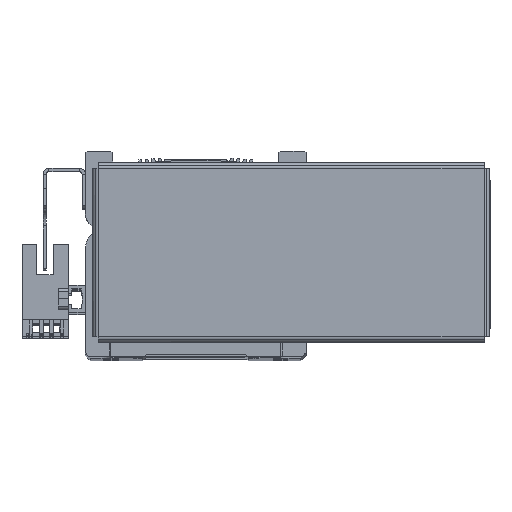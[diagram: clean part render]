
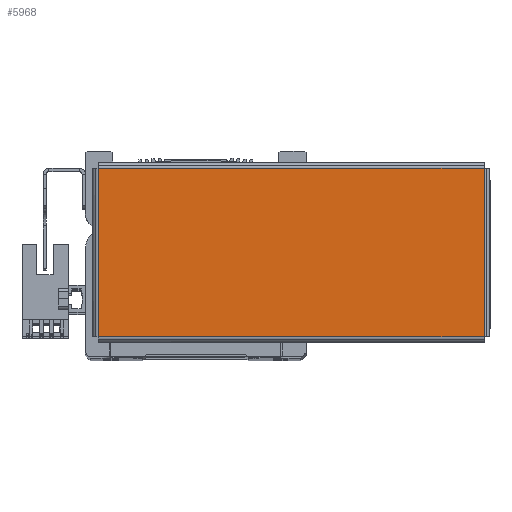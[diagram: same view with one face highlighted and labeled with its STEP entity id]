
A CAD part, top view. The second image highlights one B-rep face of the part: STEP entity #5968.
In plain terms, the highlighted planar face has unit normal (0, 0, 1) as drawn and (0, 0, -1) by its records, which use the part's own axes.
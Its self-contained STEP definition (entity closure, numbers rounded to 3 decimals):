
#1478 = ORIENTED_EDGE ( 'NONE', *, *, #26765, .T. ) ;
#1543 = ORIENTED_EDGE ( 'NONE', *, *, #26695, .T. ) ;
#1552 = ORIENTED_EDGE ( 'NONE', *, *, #26755, .T. ) ;
#1578 = ORIENTED_EDGE ( 'NONE', *, *, #26758, .T. ) ;
#5968 = ADVANCED_FACE ( 'NONE', ( #27802 ), #21535, .F. ) ;
#7995 = CARTESIAN_POINT ( 'NONE',  ( -56.893, 24.763, -1. ) ) ;
#8027 = DIRECTION ( 'NONE',  ( 1., 0., 0. ) ) ;
#11810 = CARTESIAN_POINT ( 'NONE',  ( -56.863, 24.763, -1. ) ) ;
#11815 = CARTESIAN_POINT ( 'NONE',  ( 56.863, -24.763, -1. ) ) ;
#11921 = CARTESIAN_POINT ( 'NONE',  ( -56.863, -24.763, -1. ) ) ;
#12757 = EDGE_LOOP ( 'NONE', ( #1478, #1578, #1552, #1543 ) ) ;
#21535 = PLANE ( 'NONE',  #35693 ) ;
#21553 = CARTESIAN_POINT ( 'NONE',  ( 0., 0., -1. ) ) ;
#21564 = DIRECTION ( 'NONE',  ( 0., 0., 1. ) ) ;
#21565 = DIRECTION ( 'NONE',  ( 1., 0., 0. ) ) ;
#21862 = VERTEX_POINT ( 'NONE', #11815 ) ;
#21999 = VECTOR ( 'NONE', #8027, 1000. ) ;
#22053 = LINE ( 'NONE', #7995, #21999 ) ;
#22101 = LINE ( 'NONE', #38589, #22102 ) ;
#22102 = VECTOR ( 'NONE', #38570, 1000. ) ;
#22104 = LINE ( 'NONE', #38572, #22107 ) ;
#22107 = VECTOR ( 'NONE', #38592, 1000. ) ;
#22147 = LINE ( 'NONE', #38624, #22166 ) ;
#22166 = VECTOR ( 'NONE', #38619, 1000. ) ;
#23071 = VERTEX_POINT ( 'NONE', #11810 ) ;
#26038 = VERTEX_POINT ( 'NONE', #11921 ) ;
#26695 = EDGE_CURVE ( 'NONE', #23071, #40767, #22053, .T. ) ;
#26755 = EDGE_CURVE ( 'NONE', #26038, #23071, #22101, .T. ) ;
#26758 = EDGE_CURVE ( 'NONE', #21862, #26038, #22104, .T. ) ;
#26765 = EDGE_CURVE ( 'NONE', #40767, #21862, #22147, .T. ) ;
#27802 = FACE_OUTER_BOUND ( 'NONE', #12757, .T. ) ;
#34631 = CARTESIAN_POINT ( 'NONE',  ( 56.863, 24.763, -1. ) ) ;
#35693 = AXIS2_PLACEMENT_3D ( 'NONE', #21553, #21564, #21565 ) ;
#38570 = DIRECTION ( 'NONE',  ( 0., 1., 0. ) ) ;
#38572 = CARTESIAN_POINT ( 'NONE',  ( 56.893, -24.763, -1. ) ) ;
#38589 = CARTESIAN_POINT ( 'NONE',  ( -56.863, -24.793, -1. ) ) ;
#38592 = DIRECTION ( 'NONE',  ( -1., 0., 0. ) ) ;
#38619 = DIRECTION ( 'NONE',  ( 0., -1., 0. ) ) ;
#38624 = CARTESIAN_POINT ( 'NONE',  ( 56.863, 24.793, -1. ) ) ;
#40767 = VERTEX_POINT ( 'NONE', #34631 ) ;
